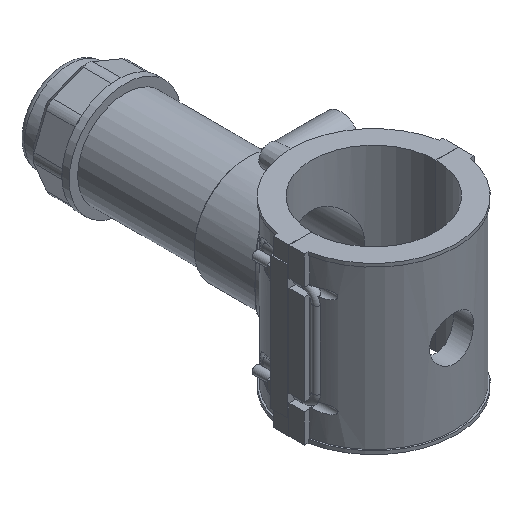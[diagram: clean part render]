
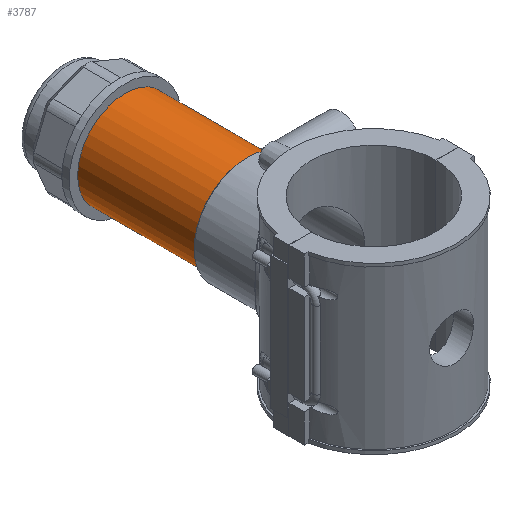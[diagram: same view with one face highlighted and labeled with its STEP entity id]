
A CAD part, isometric view. The second image highlights one B-rep face of the part: STEP entity #3787.
In plain terms, the highlighted cylindrical face has radius 33.928 mm (diameter 67.856 mm), a full revolution.
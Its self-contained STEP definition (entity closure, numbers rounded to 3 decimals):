
#53=FACE_BOUND('',#560,.T.);
#82=B_SPLINE_CURVE_WITH_KNOTS('',3,(#5587,#5588,#5589,#5590,#5591,#5592,
#5593,#5594,#5595,#5596,#5597,#5598,#5599,#5600),.UNSPECIFIED.,.F.,.F.,
(4,2,2,2,2,2,4),(0.,0.254,0.507,1.014,
1.521,1.774,2.028),.UNSPECIFIED.);
#83=B_SPLINE_CURVE_WITH_KNOTS('',3,(#5601,#5602,#5603,#5604,#5605,#5606,
#5607,#5608,#5609,#5610,#5611,#5612,#5613,#5614,#5615,#5616,#5617,#5618,
#5619,#5620,#5621,#5622,#5623,#5624,#5625,#5626,#5627,#5628,#5629,#5630,
#5631,#5632,#5633,#5634,#5635,#5636,#5637,#5638),.UNSPECIFIED.,.F.,.F.,
(4,2,2,2,2,2,2,2,2,2,2,2,2,2,2,2,2,2,4),(2.028,2.281,
2.535,3.041,3.548,3.802,4.056,
4.309,4.563,5.07,5.577,5.83,
6.083,6.337,6.59,7.097,7.604,
7.858,8.111),.UNSPECIFIED.);
#344=FACE_OUTER_BOUND('',#559,.T.);
#559=EDGE_LOOP('',(#2788,#2789,#2790,#2791,#2792,#2793));
#560=EDGE_LOOP('',(#2794,#2795));
#779=CIRCLE('',#4052,33.928);
#780=CIRCLE('',#4053,33.928);
#793=CIRCLE('',#4080,33.928);
#794=CIRCLE('',#4081,33.928);
#956=LINE('',#5888,#1297);
#1297=VECTOR('',#4630,33.928);
#1582=VERTEX_POINT('',#5584);
#1583=VERTEX_POINT('',#5586);
#1645=VERTEX_POINT('',#5829);
#1646=VERTEX_POINT('',#5830);
#1660=VERTEX_POINT('',#5884);
#1661=VERTEX_POINT('',#5885);
#1960=EDGE_CURVE('',#1583,#1582,#82,.T.);
#1961=EDGE_CURVE('',#1582,#1583,#83,.T.);
#2056=EDGE_CURVE('',#1645,#1646,#779,.T.);
#2057=EDGE_CURVE('',#1646,#1645,#780,.T.);
#2082=EDGE_CURVE('',#1660,#1661,#793,.T.);
#2083=EDGE_CURVE('',#1661,#1660,#794,.T.);
#2084=EDGE_CURVE('',#1661,#1646,#956,.T.);
#2788=ORIENTED_EDGE('',*,*,#2082,.F.);
#2789=ORIENTED_EDGE('',*,*,#2083,.F.);
#2790=ORIENTED_EDGE('',*,*,#2084,.T.);
#2791=ORIENTED_EDGE('',*,*,#2057,.T.);
#2792=ORIENTED_EDGE('',*,*,#2056,.T.);
#2793=ORIENTED_EDGE('',*,*,#2084,.F.);
#2794=ORIENTED_EDGE('',*,*,#1960,.T.);
#2795=ORIENTED_EDGE('',*,*,#1961,.T.);
#3691=CYLINDRICAL_SURFACE('',#4079,33.928);
#3787=ADVANCED_FACE('',(#344,#53),#3691,.T.);
#4052=AXIS2_PLACEMENT_3D('',#5831,#4558,#4559);
#4053=AXIS2_PLACEMENT_3D('',#5832,#4560,#4561);
#4079=AXIS2_PLACEMENT_3D('',#5883,#4624,#4625);
#4080=AXIS2_PLACEMENT_3D('',#5886,#4626,#4627);
#4081=AXIS2_PLACEMENT_3D('',#5887,#4628,#4629);
#4558=DIRECTION('center_axis',(0.,1.,0.));
#4559=DIRECTION('ref_axis',(1.,0.,0.));
#4560=DIRECTION('center_axis',(0.,1.,0.));
#4561=DIRECTION('ref_axis',(1.,0.,0.));
#4624=DIRECTION('center_axis',(0.,1.,0.));
#4625=DIRECTION('ref_axis',(0.,0.,1.));
#4626=DIRECTION('center_axis',(0.,1.,0.));
#4627=DIRECTION('ref_axis',(1.,0.,0.));
#4628=DIRECTION('center_axis',(0.,1.,0.));
#4629=DIRECTION('ref_axis',(1.,0.,0.));
#4630=DIRECTION('',(0.,-1.,0.));
#5584=CARTESIAN_POINT('',(33.928,96.074,0.));
#5586=CARTESIAN_POINT('',(31.212,109.374,-13.3));
#5587=CARTESIAN_POINT('Ctrl Pts',(31.212,109.374,-13.3));
#5588=CARTESIAN_POINT('Ctrl Pts',(31.212,108.529,-13.3));
#5589=CARTESIAN_POINT('Ctrl Pts',(31.248,107.658,-13.218));
#5590=CARTESIAN_POINT('Ctrl Pts',(31.39,105.932,-12.877));
#5591=CARTESIAN_POINT('Ctrl Pts',(31.496,105.077,-12.618));
#5592=CARTESIAN_POINT('Ctrl Pts',(31.893,102.624,-11.596));
#5593=CARTESIAN_POINT('Ctrl Pts',(32.26,101.141,-10.576));
#5594=CARTESIAN_POINT('Ctrl Pts',(32.936,98.799,-8.234));
#5595=CARTESIAN_POINT('Ctrl Pts',(33.291,97.778,-6.751));
#5596=CARTESIAN_POINT('Ctrl Pts',(33.665,96.756,-4.297));
#5597=CARTESIAN_POINT('Ctrl Pts',(33.764,96.497,-3.441));
#5598=CARTESIAN_POINT('Ctrl Pts',(33.895,96.156,-1.715));
#5599=CARTESIAN_POINT('Ctrl Pts',(33.928,96.074,-0.845));
#5600=CARTESIAN_POINT('Ctrl Pts',(33.928,96.074,0.));
#5601=CARTESIAN_POINT('Ctrl Pts',(33.928,96.074,0.));
#5602=CARTESIAN_POINT('Ctrl Pts',(33.928,96.074,0.845));
#5603=CARTESIAN_POINT('Ctrl Pts',(33.895,96.156,1.715));
#5604=CARTESIAN_POINT('Ctrl Pts',(33.764,96.497,3.441));
#5605=CARTESIAN_POINT('Ctrl Pts',(33.665,96.756,4.297));
#5606=CARTESIAN_POINT('Ctrl Pts',(33.291,97.778,6.751));
#5607=CARTESIAN_POINT('Ctrl Pts',(32.936,98.799,8.234));
#5608=CARTESIAN_POINT('Ctrl Pts',(32.26,101.141,10.576));
#5609=CARTESIAN_POINT('Ctrl Pts',(31.893,102.624,11.596));
#5610=CARTESIAN_POINT('Ctrl Pts',(31.496,105.077,12.618));
#5611=CARTESIAN_POINT('Ctrl Pts',(31.39,105.932,12.877));
#5612=CARTESIAN_POINT('Ctrl Pts',(31.248,107.658,13.218));
#5613=CARTESIAN_POINT('Ctrl Pts',(31.212,108.529,13.3));
#5614=CARTESIAN_POINT('Ctrl Pts',(31.212,110.219,13.3));
#5615=CARTESIAN_POINT('Ctrl Pts',(31.248,111.09,13.218));
#5616=CARTESIAN_POINT('Ctrl Pts',(31.39,112.816,12.877));
#5617=CARTESIAN_POINT('Ctrl Pts',(31.496,113.671,12.618));
#5618=CARTESIAN_POINT('Ctrl Pts',(31.893,116.124,11.596));
#5619=CARTESIAN_POINT('Ctrl Pts',(32.26,117.607,10.576));
#5620=CARTESIAN_POINT('Ctrl Pts',(32.936,119.949,8.234));
#5621=CARTESIAN_POINT('Ctrl Pts',(33.291,120.97,6.751));
#5622=CARTESIAN_POINT('Ctrl Pts',(33.665,121.992,4.297));
#5623=CARTESIAN_POINT('Ctrl Pts',(33.764,122.251,3.441));
#5624=CARTESIAN_POINT('Ctrl Pts',(33.895,122.592,1.715));
#5625=CARTESIAN_POINT('Ctrl Pts',(33.928,122.674,0.845));
#5626=CARTESIAN_POINT('Ctrl Pts',(33.928,122.674,-0.845));
#5627=CARTESIAN_POINT('Ctrl Pts',(33.895,122.592,-1.715));
#5628=CARTESIAN_POINT('Ctrl Pts',(33.764,122.251,-3.441));
#5629=CARTESIAN_POINT('Ctrl Pts',(33.665,121.992,-4.297));
#5630=CARTESIAN_POINT('Ctrl Pts',(33.291,120.97,-6.751));
#5631=CARTESIAN_POINT('Ctrl Pts',(32.936,119.949,-8.234));
#5632=CARTESIAN_POINT('Ctrl Pts',(32.26,117.607,-10.576));
#5633=CARTESIAN_POINT('Ctrl Pts',(31.893,116.124,-11.596));
#5634=CARTESIAN_POINT('Ctrl Pts',(31.496,113.671,-12.618));
#5635=CARTESIAN_POINT('Ctrl Pts',(31.39,112.816,-12.877));
#5636=CARTESIAN_POINT('Ctrl Pts',(31.248,111.09,-13.218));
#5637=CARTESIAN_POINT('Ctrl Pts',(31.212,110.219,-13.3));
#5638=CARTESIAN_POINT('Ctrl Pts',(31.212,109.374,-13.3));
#5829=CARTESIAN_POINT('',(0.,90.902,33.928));
#5830=CARTESIAN_POINT('',(0.,90.902,-33.928));
#5831=CARTESIAN_POINT('Origin',(0.,90.902,0.));
#5832=CARTESIAN_POINT('Origin',(0.,90.902,0.));
#5883=CARTESIAN_POINT('Origin',(0.,134.015,0.));
#5884=CARTESIAN_POINT('',(0.,177.129,33.928));
#5885=CARTESIAN_POINT('',(0.,177.129,-33.928));
#5886=CARTESIAN_POINT('Origin',(0.,177.129,0.));
#5887=CARTESIAN_POINT('Origin',(0.,177.129,0.));
#5888=CARTESIAN_POINT('',(0.,134.015,-33.928));
